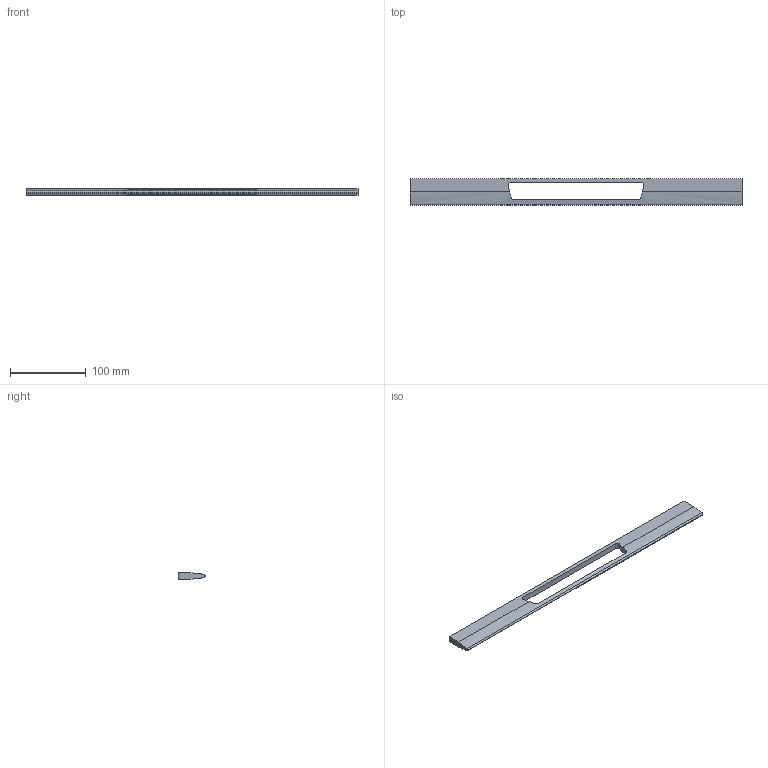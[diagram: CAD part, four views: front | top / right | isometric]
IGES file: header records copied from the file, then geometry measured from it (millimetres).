
Start section: Data from Parasolid IGES Translator 15.0.47, Copyright(c) 2006 Siemens P LM Software. All Rights Reserved.
Global section: file name: 9105840.igs; native system:  By UGS Corp.; preprocessor: XPlus GENERIC/IGES 3.0; author: Noname; organization: Noname; date: 20140122.182930; units: millimetre
Bounding box: 437 x 35 x 8 mm (x, y, z)
Surface area: 30605.3 mm2 (no closed solid volume)
Topology: 0 solids, 0 shells, 22 faces, 120 edges, 118 vertices
Faces by surface type: revolution 11, extrusion 11
